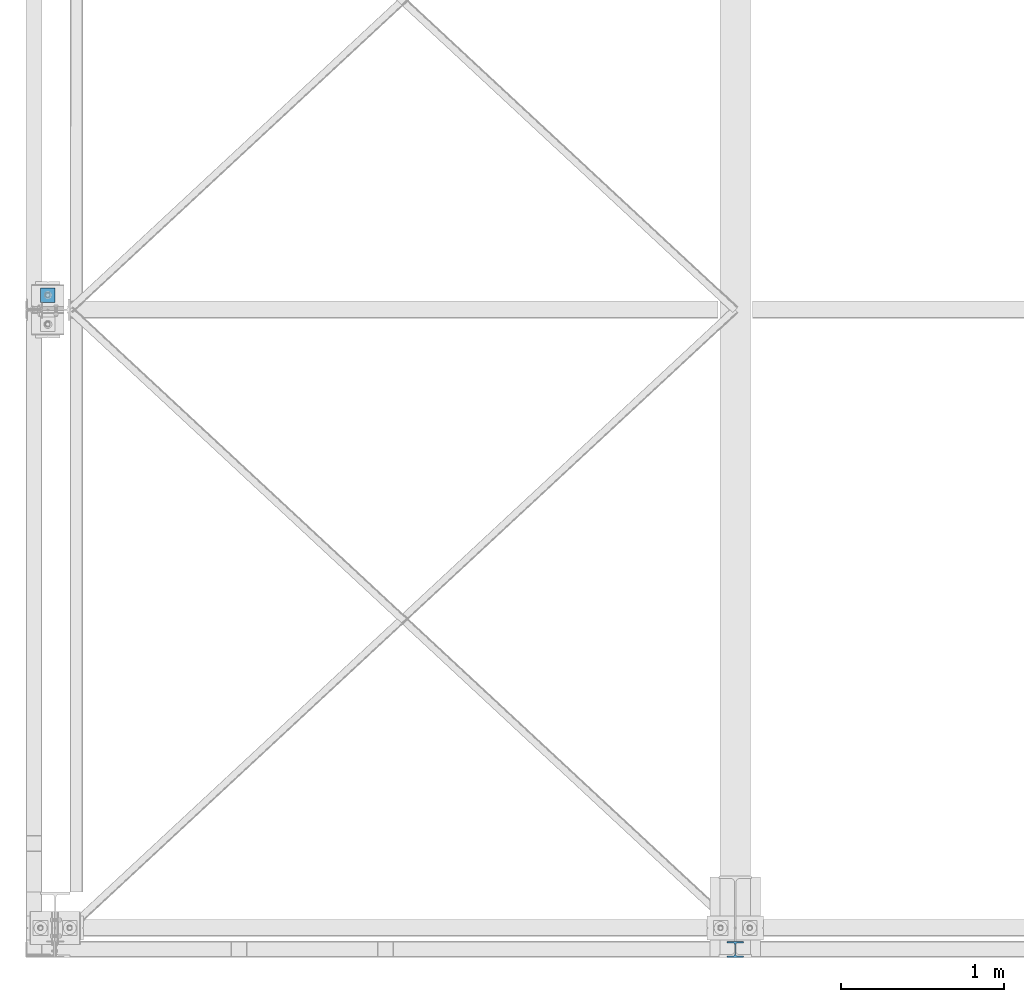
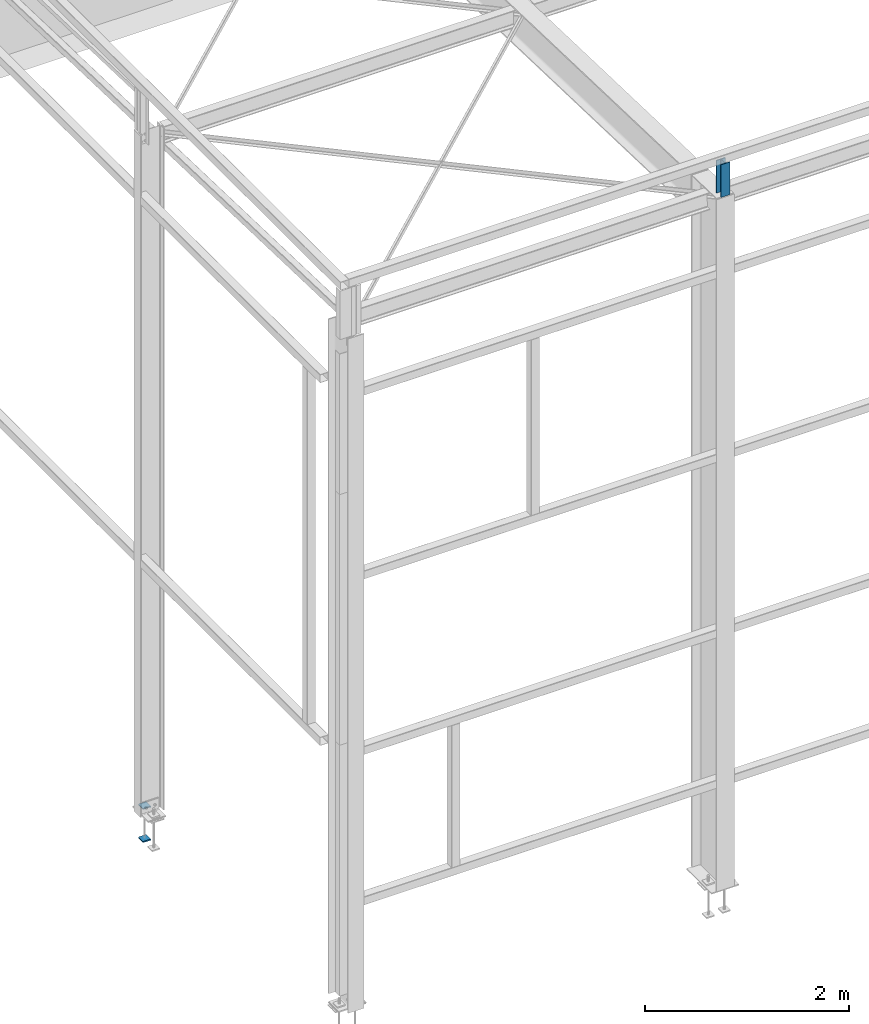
# One storey, part 64 of 123: 3 discrete accessories, 2 elements without a shape of their own.
"""IFC2X3 building model written with IfcOpenShell, lengths in millimetres."""

from ifc_helpers import new_model, si_unit, frame, origin_with_axes, origin_2d_with_axis, place, context, subcontext, project, spatial, polyline, i_section, outline, extrude, clip, halfspace, material, type_object, element, aggregate, save


model = new_model("IFC2X3")

# Units and contexts
model_context = context("Model", 3, precision=1e-05, world=origin_with_axes())
body_context = subcontext(model_context, "Body", "Model", "MODEL_VIEW")
ifc_project = project(units=[si_unit("LENGTHUNIT", "METRE", prefix="MILLI"), si_unit("AREAUNIT", "SQUARE_METRE"), si_unit("VOLUMEUNIT", "CUBIC_METRE"), si_unit("MASSUNIT", "GRAM", prefix="KILO"), si_unit("TIMEUNIT", "SECOND"), si_unit("PLANEANGLEUNIT", "RADIAN"), si_unit("SOLIDANGLEUNIT", "STERADIAN"), si_unit("THERMODYNAMICTEMPERATUREUNIT", "DEGREE_CELSIUS"), si_unit("LUMINOUSINTENSITYUNIT", "LUMEN")], contexts=[model_context])

# Site, building, storey
site_placement = place(None, origin_with_axes())
site = spatial("IfcSite", under=ifc_project, at=site_placement, Name="Undefined", CompositionType="ELEMENT")
building_placement = place(site_placement, origin_with_axes())
building = spatial("IfcBuilding", under=site, at=building_placement, Name="Undefined", CompositionType="ELEMENT")
storey_placement = place(building_placement, origin_with_axes())
storey = spatial("IfcBuildingStorey", under=building, at=storey_placement, Name="Undefined", CompositionType="ELEMENT", Elevation=0.0)

# Assembly, discrete accessory
assembly_1_placement = place(storey_placement, origin_with_axes())
assembly_1 = element("IfcElementAssembly", 1, at=assembly_1_placement, inside=storey, Name="Steel Assembly", AssemblyPlace="NOTDEFINED", PredefinedType="RIGID_FRAME")
ifc_material_1 = material(Name="STEEL/S275-E28")
discrete_accessory_type_1 = type_object("IfcDiscreteAccessoryType", Name="BAIONNETTE")
discrete_accessory_1_placement = place(assembly_1_placement, frame((4180.0, -132.0, 8049.99544952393), z_axis=(0.0, 0.0, 1.0), x_axis=(0.0, 1.0, 0.0)))
discrete_accessory_1 = element("IfcDiscreteAccessory", 2, at=discrete_accessory_1_placement, type_object=discrete_accessory_type_1, material=ifc_material_1, Name="BAIONNETTE", ObjectType="HEA100", context=body_context, shape_type="Clipping", body=[
    clip(extrude(i_section(OverallWidth=100.0, OverallDepth=96.0, WebThickness=5.0, FlangeThickness=8.0, FilletRadius=12.0, at=origin_2d_with_axis()), frame((0.0, 0.0, 395.004550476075), z_axis=(0.0, 0.0, -1.0), x_axis=(0.0, 1.0, 0.0)), (0.0, 0.0, 1.0), 392.4), halfspace(frame((55.2953255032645, 0.0, 2.41509197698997), z_axis=(-0.0314107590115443, 0.0, -0.999506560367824), x_axis=(0.0, 1.0, 0.0)), False)),
])
aggregate(assembly_1, [discrete_accessory_1])

# Assembly, discrete accessories
assembly_2_placement = place(storey_placement, origin_with_axes())
assembly_2 = element("IfcElementAssembly", 3, at=assembly_2_placement, inside=storey, Name="Steel Assembly", AssemblyPlace="NOTDEFINED", PredefinedType="RIGID_FRAME")
ifc_material_2 = material(Name="STEEL/S235-E24")
discrete_accessory_type_2 = type_object("IfcDiscreteAccessoryType", Name="PLAQUETTE")
discrete_accessory_2_placement = place(assembly_2_placement, frame((0.0, 3934.99715044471, -227.5), z_axis=(0.0, 0.0, 1.0), x_axis=(-1.0, 0.0, 0.0)))
discrete_accessory_2 = element("IfcDiscreteAccessory", 4, at=discrete_accessory_2_placement, type_object=discrete_accessory_type_2, material=ifc_material_2, Name="PLAQUETTE", ObjectType="PL15*90", context=body_context, shape_type="SweptSolid", body=[
    extrude(outline(polyline([(0.0, 0.0), (90.0, 0.0), (90.0, 90.0), (0.0, 90.0), (0.0, 0.0)])), frame((0.0, 0.0, -7.5), z_axis=(0.0, 0.0, 1.0), x_axis=(1.0, 0.0, 0.0)), (0.0, 0.0, 1.0), 15.0),
])
discrete_accessory_3_placement = place(assembly_2_placement, frame((0.0, 3934.99715044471, -622.5), z_axis=(0.0, 0.0, 1.0), x_axis=(-1.0, 0.0, 0.0)))
discrete_accessory_3 = element("IfcDiscreteAccessory", 5, at=discrete_accessory_3_placement, type_object=discrete_accessory_type_2, material=ifc_material_2, Name="PLAQUETTE", ObjectType="PL15*90", context=body_context, shape_type="SweptSolid", body=[
    extrude(outline(polyline([(0.0, 0.0), (90.0, 0.0), (90.0, 90.0), (0.0, 90.0), (0.0, 0.0)])), frame((0.0, 0.0, -7.5), z_axis=(0.0, 0.0, 1.0), x_axis=(1.0, 0.0, 0.0)), (0.0, 0.0, 1.0), 15.0),
])
aggregate(assembly_2, [discrete_accessory_2, discrete_accessory_3])

save(model, "model.ifc")
